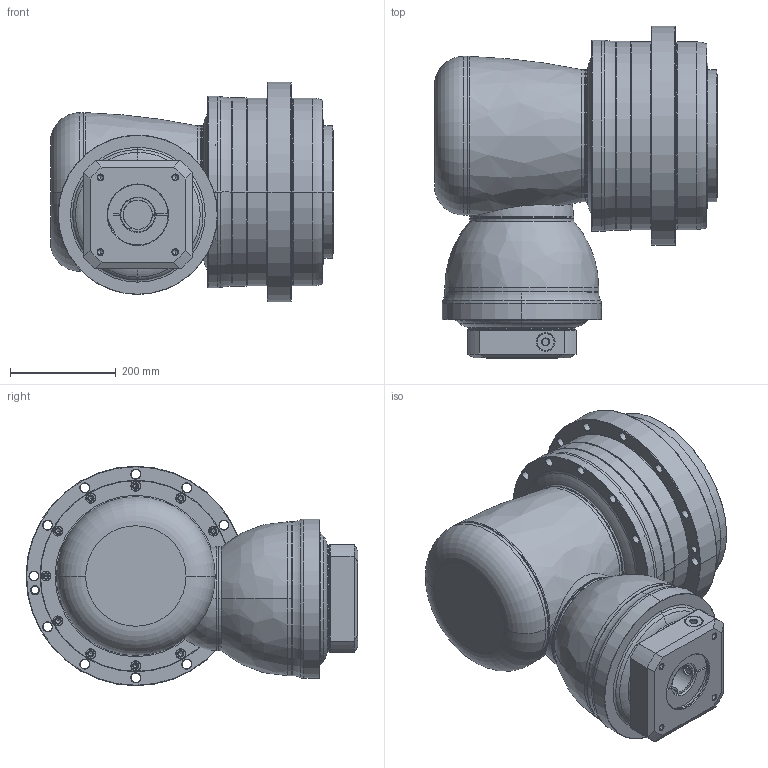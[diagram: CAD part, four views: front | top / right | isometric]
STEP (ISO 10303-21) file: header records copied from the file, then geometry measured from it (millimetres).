
FILE_DESCRIPTION((''),'2;1');
FILE_NAME('AHK355_2ST_55-P0409C00101_ASM','2016-08-24T',('d01943'),(''),'PRO/ENGINEER BY PARAMETRIC TECHNOLOGY CORPORATION, 2008410','PRO/ENGINEER BY PARAMETRIC TECHNOLOGY CORPORATION, 2008410','');
FILE_SCHEMA(('CONFIG_CONTROL_DESIGN'));
Length unit declared in the file: millimetre
Products named in the file (12): P1008800002; P1831100001; P0276100003; P0357100003; P1315800001; P1007800001; P1318800401; P0409C00101; P0503C00016; P0912804201; 21711426021; AHK355_2ST_55-P0409C00101_ASM
Assembly tree (11 placements, depth 2):
  AHK355_2ST_55-P0409C00101_ASM
    P1008800002
    P1831100001
    P0276100003
    P0357100003
    P1315800001
    P1007800001
    P1318800401
    P0409C00101
    P0503C00016
    P0912804201
    21711426021
Bounding box: 535 x 627.5 x 415 mm (x, y, z)
Volume: 44770841.9 mm3; surface area: 2411003 mm2
Topology: 12 solids, 12 shells, 964 faces, 2139 edges, 1235 vertices
Faces by surface type: cylinder 341, cone 336, torus 136, plane 125, bspline 24, sphere 2
Entity records: 31858 total; most frequent: CARTESIAN_POINT 9792, DIRECTION 5111, ORIENTED_EDGE 4162, AXIS2_PLACEMENT_3D 2183, EDGE_CURVE 2081, VERTEX_POINT 1235, CIRCLE 1220, EDGE_LOOP 1160
